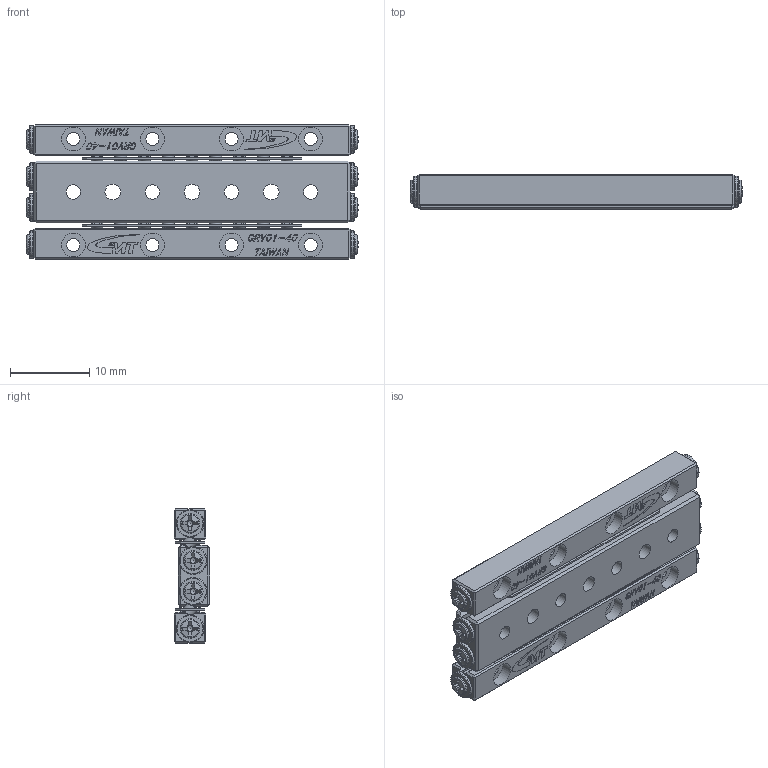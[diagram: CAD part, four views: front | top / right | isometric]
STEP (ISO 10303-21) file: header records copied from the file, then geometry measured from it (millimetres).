
FILE_DESCRIPTION (( 'STEP AP203' ), '1' );
FILE_NAME ('GRD01-40.STEP', '2023-08-09T00:26:11', ( '' ), ( '' ), 'SwSTEP 2.0', 'SolidWorks 2019', '' );
FILE_SCHEMA (( 'CONFIG_CONTROL_DESIGN' ));
Length unit declared in the file: millimetre
Products named in the file (4): GRV01-40-模糊化保持器組; GRD01-40; GRV01-40-模糊化軌道; GRD01-40-模糊化中軌
Assembly tree (5 placements, depth 2):
  GRD01-40
    GRD01-40-模糊化中軌
    GRV01-40-模糊化軌道  x2
    GRV01-40-模糊化保持器組  x2
Bounding box: 41.96 x 4.5 x 17 mm (x, y, z)
Volume: 2233.5 mm3; surface area: 3528.2 mm2
Topology: 5 solids, 13 shells, 1952 faces, 5042 edges, 3276 vertices
Faces by surface type: plane 1303, bspline 268, cylinder 233, cone 80, torus 60, sphere 8
Full cylindrical faces by diameter (mm): 1.32 x8, 1.65 x8, 1.8 x4, 2 x3, 2.5 x8, 3 x12, 3.5 x8
Entity records: 40031 total; most frequent: CARTESIAN_POINT 12665, ORIENTED_EDGE 5898, DIRECTION 4831, EDGE_CURVE 2949, VERTEX_POINT 1938, LINE 1931, VECTOR 1931, AXIS2_PLACEMENT_3D 1450
